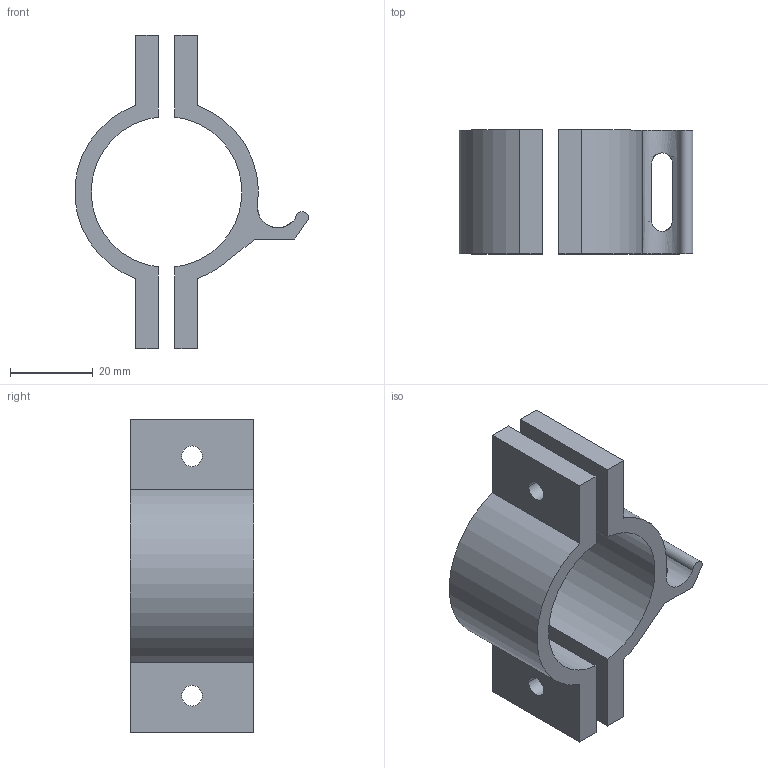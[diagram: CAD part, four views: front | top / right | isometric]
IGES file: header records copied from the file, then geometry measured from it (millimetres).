
Start section:  PTC IGES file: collier_braze_on.igs
Global section: file name: collier_braze_on.igs; native system: Creo Parametric by Parametric Technology Corporation; preprocessor: 2014200; author: Bloodydog; organization: Unknown; date: 20160205.182728; units: millimetre
Bounding box: 56.67 x 30 x 76.01 mm (x, y, z)
Volume: 26184.9 mm3; surface area: 14318.6 mm2
Topology: 2 solids, 2 shells, 38 faces, 102 edges, 68 vertices
Faces by surface type: bspline 21, revolution 17
